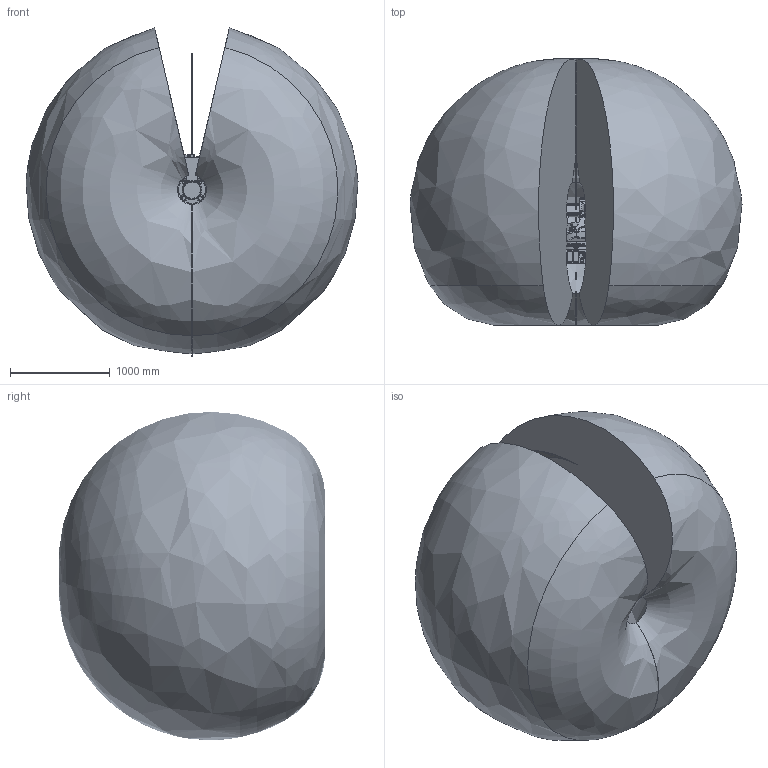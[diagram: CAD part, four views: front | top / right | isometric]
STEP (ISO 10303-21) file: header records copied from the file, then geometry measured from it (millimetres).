
FILE_DESCRIPTION((''),'2;1');
FILE_NAME('R10-1_ASM','2023-10-14T15:26:47',('zty'),(''),'CREO PARAMETRIC BY PTC INC, 2018260','CREO PARAMETRIC BY PTC INC, 2018260','');
FILE_SCHEMA(('CONFIG_CONTROL_DESIGN','SHAPE_APPEARANCE_LAYERS_GROUPS'));
Products named in the file (11): R10-1_BASE; R10-1_JOINT1; R10-1_JOINT2; R10-1_JOINT3; R10-1_JOINT4; R10-1_JOINT5; R10-1_JOINT6; R10-1_CABLE; R10-1_RANGE; R10-1_RANGE_2; R10-1_ASM
Assembly tree (10 placements, depth 2):
  R10-1_ASM
    R10-1_BASE
    R10-1_JOINT1
    R10-1_JOINT2
    R10-1_JOINT3
    R10-1_JOINT4
    R10-1_JOINT5
    R10-1_JOINT6
    R10-1_CABLE
    R10-1_RANGE
    R10-1_RANGE_2
Bounding box: 3335.97 x 2677.31 x 3298.89 mm (x, y, z)
Volume: 15585734210.7 mm3; surface area: 51747767.9 mm2
Topology: 10 solids, 21 shells, 8328 faces, 20880 edges, 12805 vertices
Faces by surface type: cylinder 2955, plane 2071, bspline 1543, torus 982, cone 678, sphere 98, revolution 1
Entity records: 335473 total; most frequent: CARTESIAN_POINT 141213, ORIENTED_EDGE 41290, DIRECTION 37695, EDGE_CURVE 20645, AXIS2_PLACEMENT_3D 15111, VERTEX_POINT 12801, EDGE_LOOP 8954, FACE_OUTER_BOUND 8328
